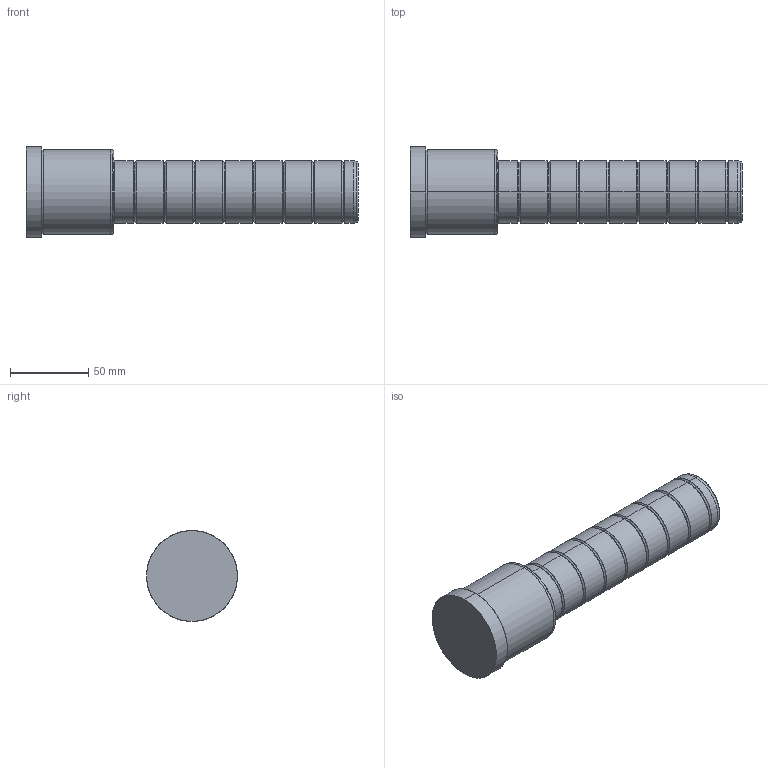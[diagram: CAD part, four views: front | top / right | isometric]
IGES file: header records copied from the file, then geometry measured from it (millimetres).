
Start section: SolidWorks IGES file using analytic representation for surfaces
Global section: file name: C:\Documents and Settings\kalite-mail\Desktop\IGS\D02\40\D02 - 40x56x156.IGS; native system: SolidWorks 2008; preprocessor: SolidWorks 2008; author: kalite-mail; date: 080617.100547; units: millimetre
Bounding box: 212 x 58 x 58 mm (x, y, z)
Surface area: 35368.9 mm2 (no closed solid volume)
Topology: 0 solids, 0 shells, 72 faces, 904 edges, 904 vertices
Faces by surface type: bspline 42, revolution 30
